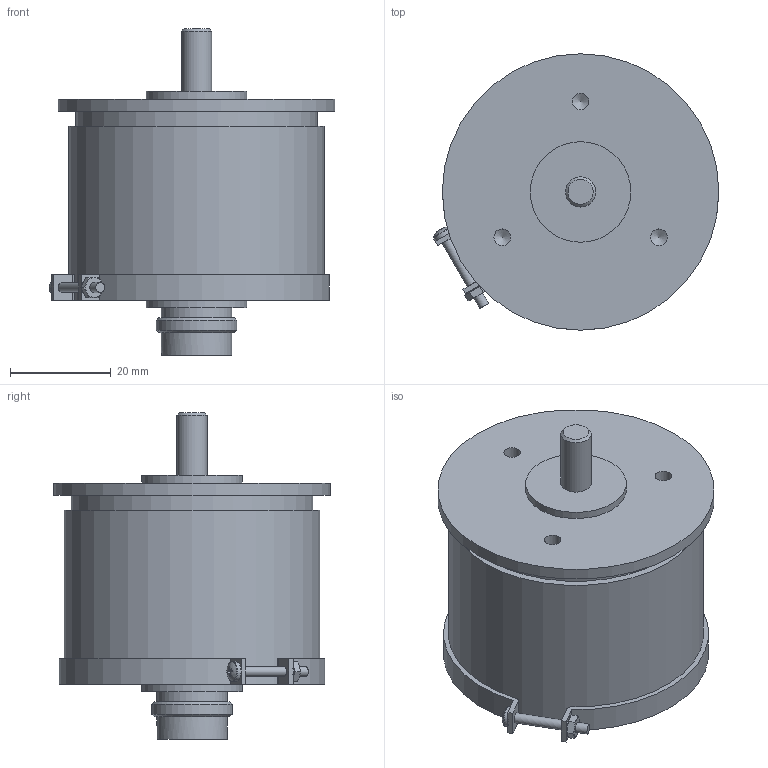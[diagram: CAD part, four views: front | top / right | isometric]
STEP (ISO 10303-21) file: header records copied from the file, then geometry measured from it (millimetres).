
FILE_DESCRIPTION (( 'STEP AP214' ), '1' );
FILE_NAME ('MFP500-Zusbau-dummy.STEP', '2019-05-27T13:36:11', ( '' ), ( '' ), 'SwSTEP 2.0', 'SolidWorks 2017', '' );
FILE_SCHEMA (( 'AUTOMOTIVE_DESIGN' ));
Length unit declared in the file: millimetre
Products named in the file (5): MFP500-Zusbau-dummy; MFP500-dummy_MPF500-N; MFP500-spannschelle-dummy; pan head cross recess screw_din_DIN EN ISO 7045 - M2 x 16 - Z - 16N; hex nut style 1 gradeab_din_Hexagon Nut ISO 4032 - M2 - W - N
Assembly tree (4 placements, depth 2):
  MFP500-Zusbau-dummy
    MFP500-dummy_MPF500-N
    MFP500-spannschelle-dummy
    pan head cross recess screw_din_DIN EN ISO 7045 - M2 x 16 - Z - 16N
    hex nut style 1 gradeab_din_Hexagon Nut ISO 4032 - M2 - W - N
Bounding box: 56.83 x 55 x 65 mm (x, y, z)
Volume: 84716.3 mm3; surface area: 14991.3 mm2
Topology: 4 solids, 4 shells, 105 faces, 227 edges, 139 vertices
Faces by surface type: plane 54, cylinder 24, cone 23, sphere 2, torus 2
Full cylindrical faces by diameter (mm): 1.6 x1, 2 x4, 3.3 x3, 4 x2, 6 x1, 14 x2, 16 x1, 20 x2, 48 x1, 50.8 x1, 55 x1
Entity records: 2883 total; most frequent: CARTESIAN_POINT 535, DIRECTION 484, ORIENTED_EDGE 376, AXIS2_PLACEMENT_3D 209, EDGE_CURVE 188, EDGE_LOOP 150, VERTEX_POINT 130, FACE_OUTER_BOUND 127
